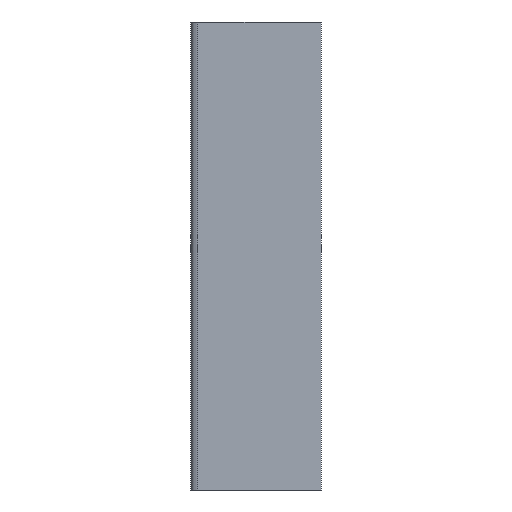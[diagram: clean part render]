
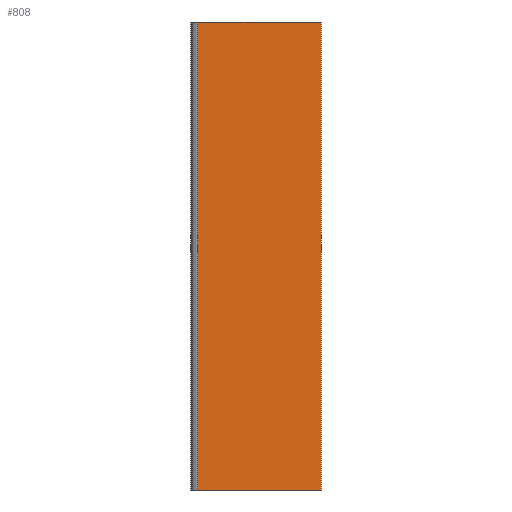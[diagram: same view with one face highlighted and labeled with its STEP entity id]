
A CAD part, front view. The second image highlights one B-rep face of the part: STEP entity #808.
In plain terms, the highlighted planar face has unit normal (0, -1, 0).
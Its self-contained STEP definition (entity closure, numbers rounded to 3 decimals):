
#67=FACE_OUTER_BOUND('',#110,.T.);
#110=EDGE_LOOP('',(#666,#667,#668,#669));
#181=LINE('',#1211,#255);
#190=LINE('',#1233,#264);
#231=LINE('',#1366,#305);
#232=LINE('',#1368,#306);
#255=VECTOR('',#961,10.);
#264=VECTOR('',#980,10.);
#305=VECTOR('',#1107,10.);
#306=VECTOR('',#1110,10.);
#333=VERTEX_POINT('',#1208);
#334=VERTEX_POINT('',#1210);
#342=VERTEX_POINT('',#1232);
#391=VERTEX_POINT('',#1364);
#419=EDGE_CURVE('',#333,#334,#181,.T.);
#430=EDGE_CURVE('',#334,#342,#190,.T.);
#497=EDGE_CURVE('',#342,#391,#231,.T.);
#498=EDGE_CURVE('',#391,#333,#232,.T.);
#666=ORIENTED_EDGE('',*,*,#497,.F.);
#667=ORIENTED_EDGE('',*,*,#430,.F.);
#668=ORIENTED_EDGE('',*,*,#419,.F.);
#669=ORIENTED_EDGE('',*,*,#498,.F.);
#773=PLANE('',#891);
#808=ADVANCED_FACE('',(#67),#773,.T.);
#891=AXIS2_PLACEMENT_3D('',#1367,#1108,#1109);
#961=DIRECTION('',(0.,0.,-1.));
#980=DIRECTION('',(-1.,0.,0.));
#1107=DIRECTION('',(0.,0.,1.));
#1108=DIRECTION('center_axis',(0.,-1.,0.));
#1109=DIRECTION('ref_axis',(1.,0.,0.));
#1110=DIRECTION('',(1.,0.,0.));
#1208=CARTESIAN_POINT('',(105.5,-7.5,132.));
#1210=CARTESIAN_POINT('',(105.5,-7.5,-1.));
#1211=CARTESIAN_POINT('',(105.5,-7.5,-1.));
#1232=CARTESIAN_POINT('',(70.5,-7.5,-1.));
#1233=CARTESIAN_POINT('',(90.5,-7.5,-1.));
#1364=CARTESIAN_POINT('',(70.5,-7.5,132.));
#1366=CARTESIAN_POINT('',(70.5,-7.5,-1.));
#1367=CARTESIAN_POINT('Origin',(68.5,-7.5,-1.));
#1368=CARTESIAN_POINT('',(90.5,-7.5,132.));
